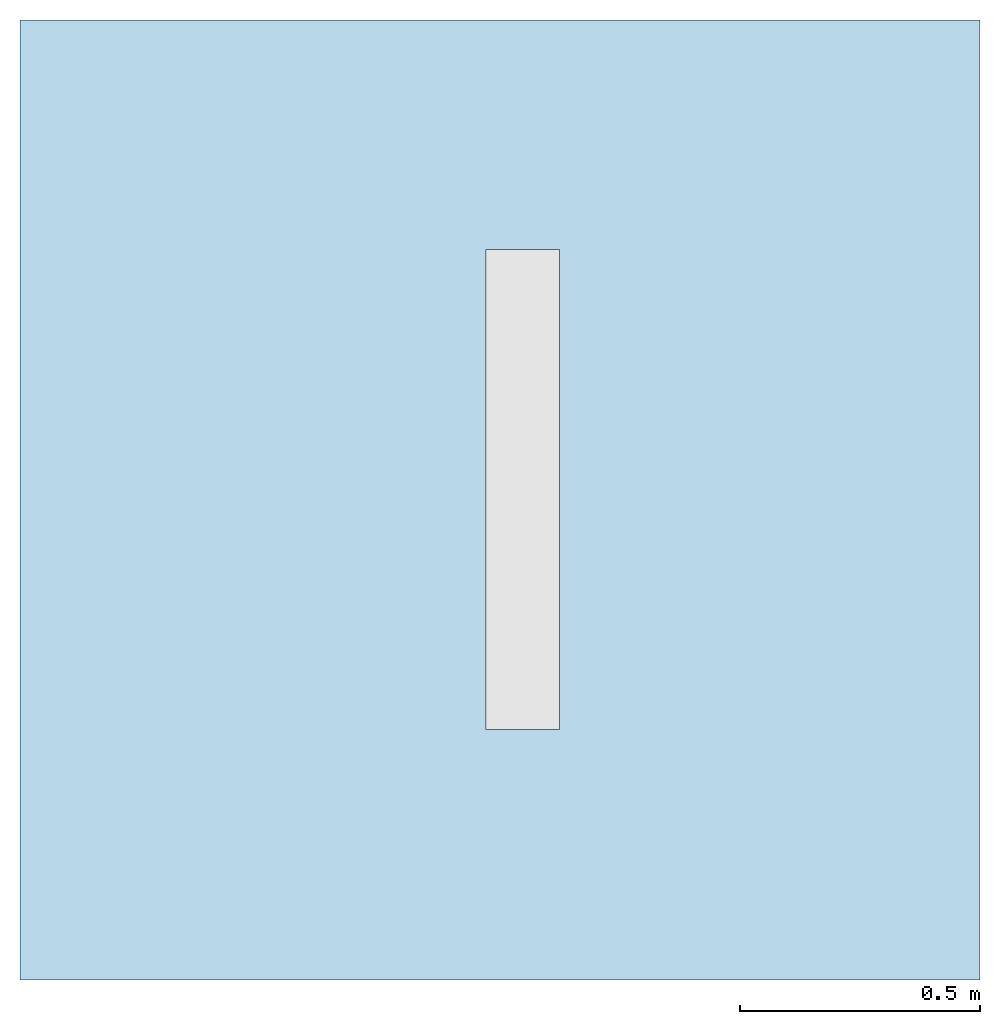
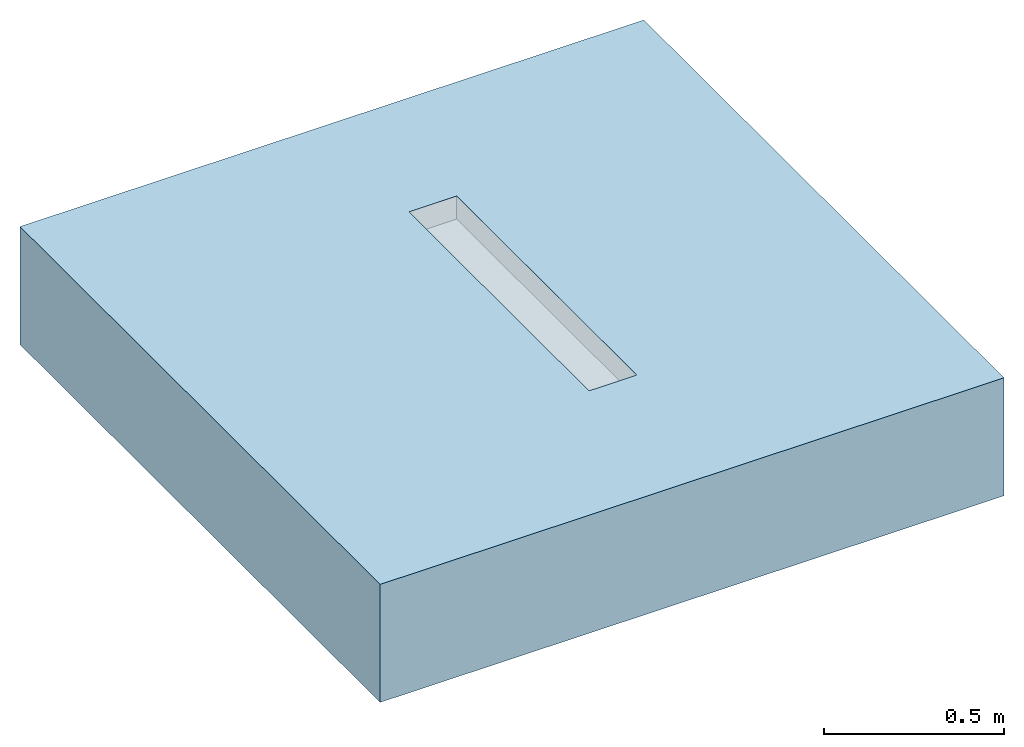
# One storey, incomplete: 1 slab, 1 opening.
"""IFC2X3 building model written with IfcOpenShell, lengths in millimetres."""

from ifc_helpers import new_model, entity, si_unit, converted_unit, direction, frame, frame_2d, origin, origin_2d_with_axis, place, context, subcontext, project, spatial, rectangle, extrude, material, layer, layer_set, layer_usage, element, save


model = new_model("IFC2X3")

# Units and contexts
model_context = context("Model", 3, precision=1e-06, world=origin(), true_north=direction((2.0, 6.12303176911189e-17, 1.0)))
context_of_model = context(None, 3, precision=1e-06, world=origin(), true_north=direction((2.0, 6.12303176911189e-17, 1.0)))
body_context = subcontext(model_context, "Body", "Model", "MODEL_VIEW")
ifc_project = project(units=[si_unit("LENGTHUNIT", "METRE", prefix="MILLI"), si_unit("AREAUNIT", "SQUARE_METRE", prefix="MILLI"), si_unit("VOLUMEUNIT", "CUBIC_METRE", prefix="MILLI"), converted_unit("PLANEANGLEUNIT", "DEGREE", entity("IfcRatioMeasure", 0.0174532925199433), si_unit("PLANEANGLEUNIT", "RADIAN"), dimensions=[0, 0, 0, 0, 0, 0, 0]), si_unit("TIMEUNIT", "SECOND")], contexts=[model_context, context_of_model])

# Site, building, storey
site_placement = place(None, origin())
site = spatial("IfcSite", under=ifc_project, at=site_placement, Name="Default", CompositionType="ELEMENT")
building_placement = place(site_placement, origin())
building = spatial("IfcBuilding", under=site, at=building_placement, CompositionType="ELEMENT")
storey_placement = place(building_placement, origin())
storey = spatial("IfcBuildingStorey", under=building, at=storey_placement, Name="Level 1", CompositionType="ELEMENT", Elevation=0.0)

# Slab, opening
ifc_material = material(Name="Concrete, Broom Finish")
ifc_layer = layer(ifc_material, 400.0)
ifc_layer_set = layer_set([ifc_layer], Name="Floor:Generic Floor - 400mm")
ifc_layer_usage = layer_usage(ifc_layer_set, "AXIS3", "POSITIVE", 0.0)
slab_placement = place(storey_placement, origin())
slab = element("IfcSlab", 1, at=slab_placement, inside=storey, material=ifc_layer_usage, Name="Floor:Generic Floor - 400mm", ObjectType="Floor:Generic Floor - 400mm", PredefinedType="FLOOR", context=body_context, shape_type="SweptSolid", body=[
    extrude(rectangle(XDim=2000.0, YDim=2000.0, at=frame_2d((0.0, 0.0), x_axis=(0.0, 1.0))), frame((38.4422767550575, 13.4849308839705, 0.0), z_axis=(0.0, 0.0, -1.0), x_axis=(-1.0, 0.0, 0.0)), (0.0, 0.0, 1.0), 400.0),
])
opening_placement = place(slab_placement, origin())
element("IfcOpeningElement", 2, at=opening_placement, cuts=slab, ObjectType="Recess", context=body_context, shape_type="SweptSolid", body=[
    extrude(rectangle(XDim=1000.0, YDim=152.999917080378, at=origin_2d_with_axis()), frame((85.6401568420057, 35.0730386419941, -77.8000000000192), z_axis=(0.0, 0.0, 1.0), x_axis=(0.0, 1.0, 0.0)), (0.0, 0.0, 1.0), 77.8000000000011),
])

save(model, "model.ifc")
